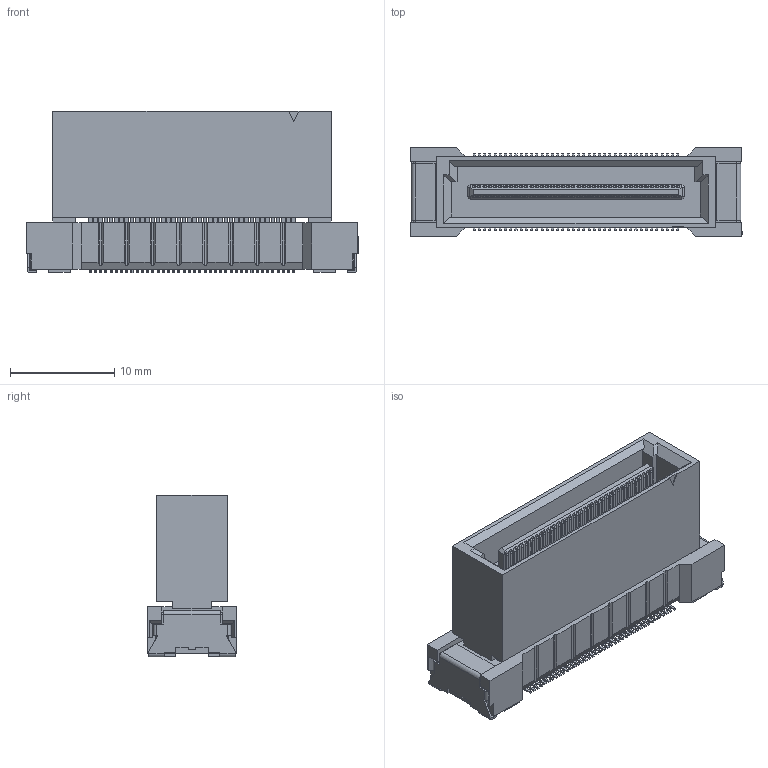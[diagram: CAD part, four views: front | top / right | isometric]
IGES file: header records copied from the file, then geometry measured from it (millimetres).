
Start section: Elysium IGES Interface
Global section: file name: 146HG:\その他\DT関連\【59期以前】\DT_CADﾃﾞｰﾀ\DT_3DCAD\DT0□\FS-10\60-36-0113_WEBサイトアップロード用\ボス無し_DT00-XXXFS-10\P3E104_DT00-080FS-10-T.igs; native system: Creo Elements/Direct Modeling 20.4A  18-Oct-2021; preprocessor: Creo Element/Direct IGES_3D V2.2; author: Unknown; organization: Unknown; date: 20220225.173819; units: millimetre
Bounding box: 31.8 x 8.5 x 15.5 mm (x, y, z)
Volume: 2492.5 mm3; surface area: 2457.7 mm2
Topology: 1 solids, 1 shells, 2317 faces, 6509 edges, 4274 vertices
Faces by surface type: bspline 2317
